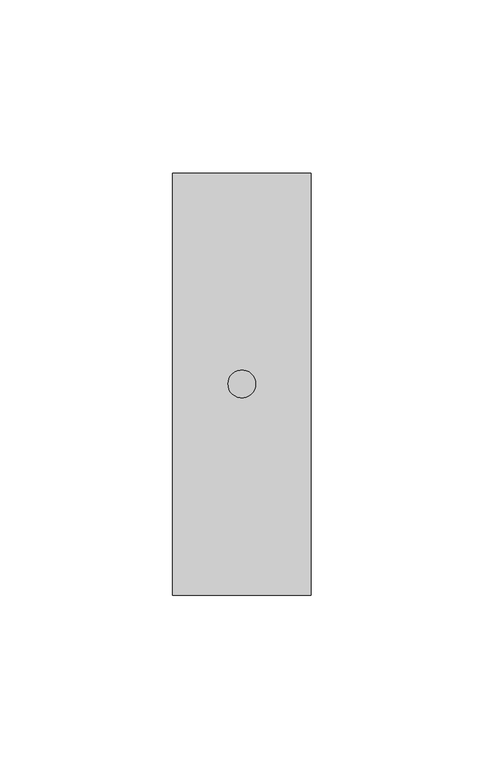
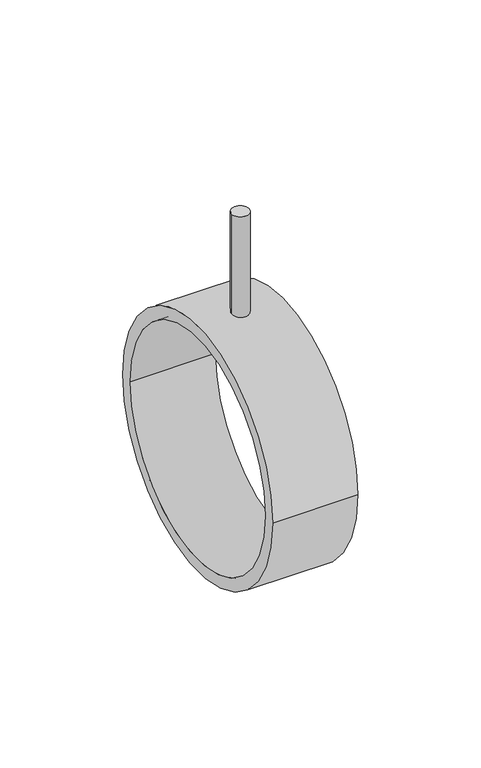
"""IFC4 building model written with IfcOpenShell, lengths in millimetres: valve geometry, MASTER 3 PLUS Bismat : MASTER 3 PLUS Bismat."""

from ifc_helpers import new_model, si_unit, point, frame, frame_2d, origin, origin_2d, place, context, project, spatial, circle_curve, trimmed, segment, composite_curve, outline, extrude, source, transform, mapped, element, save


def valve_aa6c3980(model_context):
    return source(origin(), model_context, "Body", "SweptSolid", [
        extrude(outline(composite_curve([segment(trimmed(circle_curve(origin_2d(), 61.0), [point((-61.0, 0.0))], [point((61.0, 0.0))], False, "CARTESIAN"), True, "CONTINUOUS"), segment(trimmed(circle_curve(origin_2d(), 61.0), [point((61.0, 0.0))], [point((-61.0, 0.0))], False, "CARTESIAN"), True, "CONTINUOUS")], self_intersect=False), holes=[composite_curve([segment(trimmed(circle_curve(origin_2d(), 55.0), [point((-55.0, 0.0))], [point((55.0, 0.0))], True, "CARTESIAN"), True, "CONTINUOUS"), segment(trimmed(circle_curve(origin_2d(), 55.0), [point((55.0, 0.0))], [point((-55.0, 0.0))], True, "CARTESIAN"), True, "CONTINUOUS")], self_intersect=False)]), frame((0.0, 0.0, 0.0), z_axis=(1.0, 0.0, 0.0), x_axis=(0.0, 1.0, 0.0)), (0.0, 0.0, 1.0), 40.0),
        extrude(outline(composite_curve([segment(trimmed(circle_curve(frame_2d((20.0, 0.0)), 4.0), [point((16.0, 0.0))], [point((24.0, 0.0))], False, "CARTESIAN"), True, "CONTINUOUS"), segment(trimmed(circle_curve(frame_2d((20.0, 0.0)), 4.0), [point((24.0, 0.0))], [point((16.0, 0.0))], False, "CARTESIAN"), True, "CONTINUOUS")], self_intersect=False)), frame((0.0, 0.0, 61.0), z_axis=(0.0, 0.0, 1.0), x_axis=(1.0, 0.0, 0.0)), (0.0, 0.0, 1.0), 50.0),
    ])


if __name__ == "__main__":
    model = new_model("IFC4")
    model_context = context("Model", 3, world=origin())
    ifc_project = project(units=[si_unit("LENGTHUNIT", "METRE", prefix="MILLI")], contexts=[model_context])
    site = spatial("IfcSite", under=ifc_project)
    building = spatial("IfcBuilding", under=site)
    placement = place(None, origin())
    valve_shape = valve_aa6c3980(model_context)
    element("IfcValve", 1, ObjectType="MASTER 3 PLUS Bismat : MASTER 3 PLUS Bismat", at=placement, inside=building, context=model_context, shape_type="MappedRepresentation", body=[
        mapped(valve_shape, transform((0.0, 0.0, 0.0), x_axis=(1.0, 0.0, 0.0), y_axis=(0.0, 1.0, 0.0), z_axis=(0.0, 0.0, 1.0))),
    ])
    save(model, "model.ifc")
